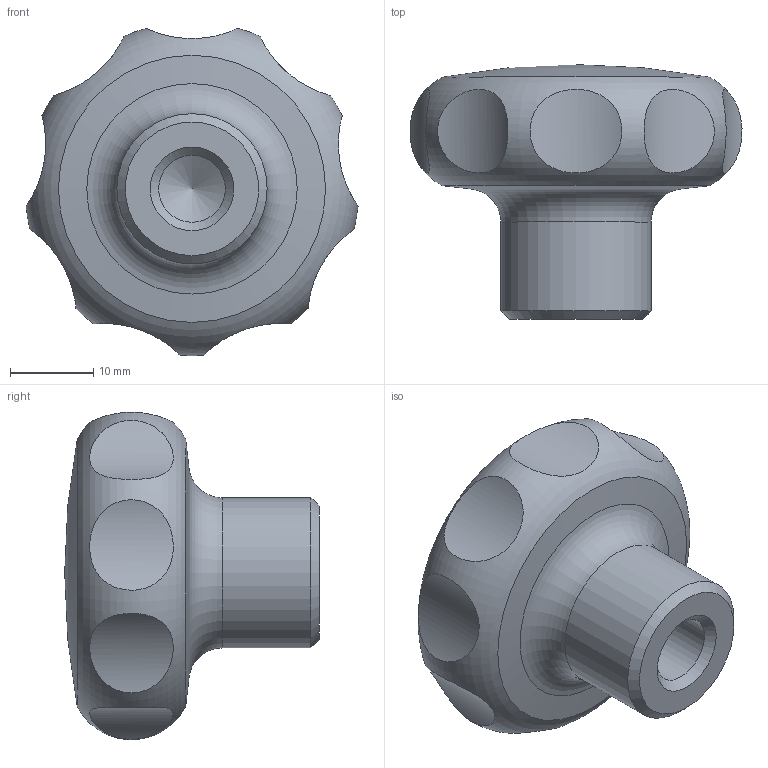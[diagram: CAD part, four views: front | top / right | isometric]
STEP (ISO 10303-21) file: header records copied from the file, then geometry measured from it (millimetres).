
FILE_DESCRIPTION( ( 'STEP AP203' ), '1' );
FILE_NAME( 'C:/Temp/Ganter_Step_05_03_2020/data/2_2/gn_5335/gn_5335_ni_c/Stainless steel-Star knob GN 5335-40-B8-C.stp', '2020-03-05T12:10:22', ( 'License CC BY-ND 4.0' ), ( 'CADENAS' ), ' ', 'PARTsolutions', ' ' );
FILE_SCHEMA( ( 'CONFIG_CONTROL_DESIGN' ) );
Length unit declared in the file: millimetre
Products named in the file (1): _Stainless steel-Star knob GN 5335-40-B8-C
Bounding box: 39.77 x 30.5 x 39.22 mm (x, y, z)
Volume: 17885.2 mm3; surface area: 4615.6 mm2
Topology: 1 solids, 1 shells, 19 faces, 30 edges, 21 vertices
Faces by surface type: cylinder 11, cone 3, torus 2, sphere 2, plane 1
Full cylindrical faces by diameter (mm): 8 x1, 18 x1
Entity records: 1169 total; most frequent: CARTESIAN_POINT 825, DIRECTION 58, EDGE_LOOP 36, ORIENTED_EDGE 36, AXIS2_PLACEMENT_3D 29, FACE_OUTER_BOUND 24, VERTEX_POINT 21, ADVANCED_FACE 19
